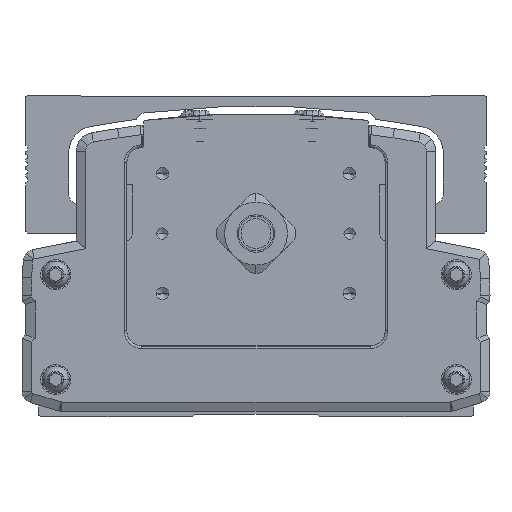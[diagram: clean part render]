
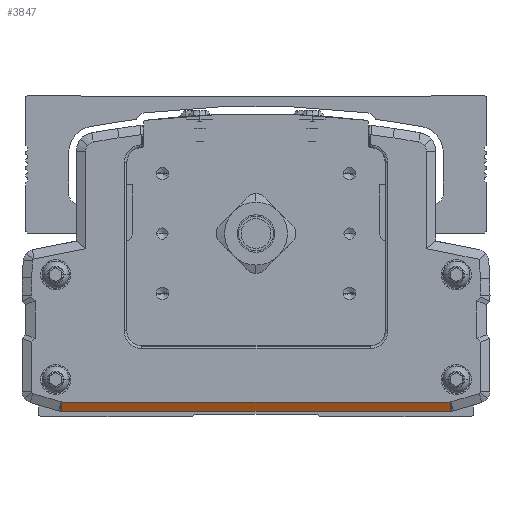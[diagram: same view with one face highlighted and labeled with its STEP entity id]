
A CAD part, front view. The second image highlights one B-rep face of the part: STEP entity #3847.
In plain terms, the highlighted planar face has unit normal (0, -0.894, -0.447).
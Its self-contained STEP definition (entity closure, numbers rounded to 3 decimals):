
#3847=ADVANCED_FACE('',(#8721),#8722,.T.);
#8721=FACE_OUTER_BOUND('',#15503,.T.);
#8722=PLANE('',#15504);
#15503=EDGE_LOOP('',(#27386,#27387,#27388,#27389));
#15504=AXIS2_PLACEMENT_3D('',#27390,#27391,#27392);
#27386=ORIENTED_EDGE('',*,*,#40974,.T.);
#27387=ORIENTED_EDGE('',*,*,#38583,.T.);
#27388=ORIENTED_EDGE('',*,*,#40987,.F.);
#27389=ORIENTED_EDGE('',*,*,#39960,.T.);
#27390=CARTESIAN_POINT('',(-300.01,-285.153,-46.25));
#27391=DIRECTION('',(0.,-0.894,-0.447));
#27392=DIRECTION('',(-1.0,0.,0.));
#38583=EDGE_CURVE('',#46919,#46920,#46921,.T.);
#39960=EDGE_CURVE('',#49123,#49121,#49124,.T.);
#40974=EDGE_CURVE('',#49121,#46919,#50560,.T.);
#40987=EDGE_CURVE('',#49123,#46920,#50579,.T.);
#46919=VERTEX_POINT('',#58482);
#46920=VERTEX_POINT('',#58483);
#46921=LINE('',#58484,#58485);
#49121=VERTEX_POINT('',#61757);
#49123=VERTEX_POINT('',#61759);
#49124=LINE('',#61760,#61761);
#50560=LINE('',#63908,#63909);
#50579=LINE('',#63960,#63961);
#58482=CARTESIAN_POINT('',(-351.868,-284.528,-47.5));
#58483=CARTESIAN_POINT('',(-248.132,-284.528,-47.5));
#58484=CARTESIAN_POINT('',(-300.01,-284.528,-47.5));
#58485=VECTOR('',#71075,10.0);
#61757=CARTESIAN_POINT('',(-351.868,-285.778,-45.));
#61759=CARTESIAN_POINT('',(-248.132,-285.778,-45.));
#61760=CARTESIAN_POINT('',(-300.01,-285.778,-45.));
#61761=VECTOR('',#72851,10.0);
#63908=CARTESIAN_POINT('',(-351.868,-285.778,-45.));
#63909=VECTOR('',#73953,10.0);
#63960=CARTESIAN_POINT('',(-248.132,-285.778,-45.));
#63961=VECTOR('',#73961,10.);
#71075=DIRECTION('',(1.0,0.,0.));
#72851=DIRECTION('',(-1.0,0.,0.));
#73953=DIRECTION('',(0.,0.447,-0.894));
#73961=DIRECTION('',(0.,0.447,-0.894));
